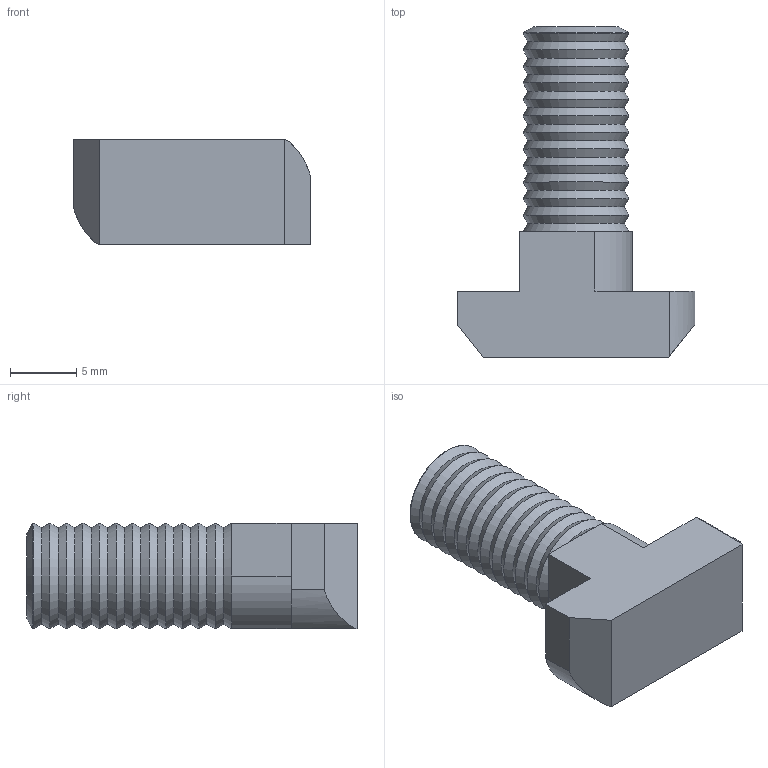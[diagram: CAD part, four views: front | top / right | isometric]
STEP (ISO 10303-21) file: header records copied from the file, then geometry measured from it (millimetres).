
FILE_DESCRIPTION((''),'2;1');
FILE_NAME('E:\catalogue and flyer\Profile catalogue 2015\Accessories JE info\Accessories-JE step file 31MAr16\JE-HH8x20-8.stp','2016-03-31T15:53:46',('h029'),(''),'Autodesk Inventor 11','Autodesk Inventor 11','');
FILE_SCHEMA(('AUTOMOTIVE_DESIGN { 1 0 10303 214 1 1 1 1 }'));
Length unit declared in the file: millimetre
Products named in the file (1): JE-HH8x20-8
Bounding box: 18 x 25 x 8 mm (x, y, z)
Volume: 1654.2 mm3; surface area: 1055.9 mm2
Topology: 1 solids, 1 shells, 44 faces, 124 edges, 82 vertices
Faces by surface type: cone 26, plane 14, cylinder 4
Entity records: 1327 total; most frequent: DIRECTION 246, CARTESIAN_POINT 221, ORIENTED_EDGE 192, AXIS2_PLACEMENT_3D 105, EDGE_CURVE 96, VERTEX_POINT 80, EDGE_LOOP 70, CIRCLE 58
